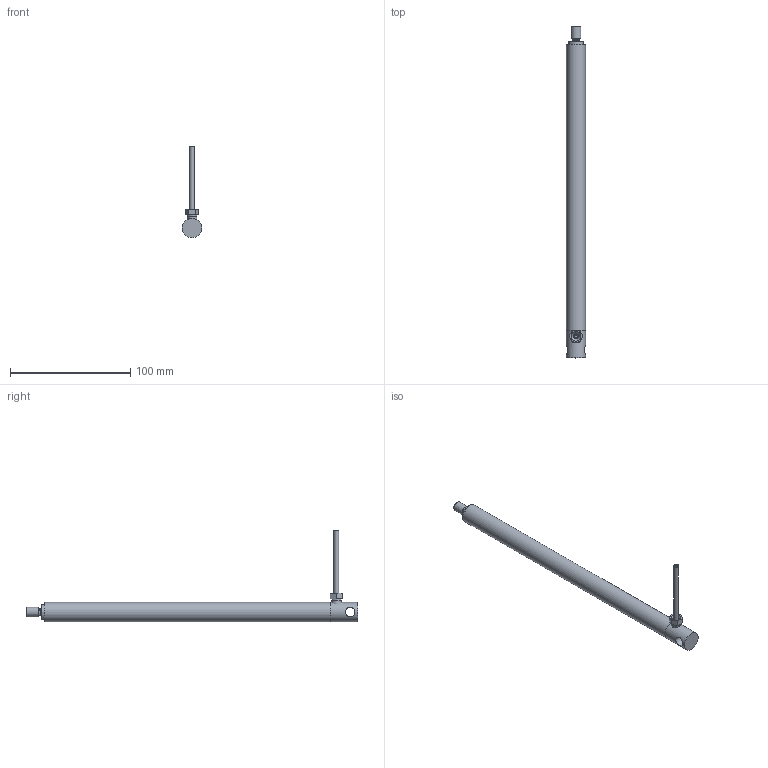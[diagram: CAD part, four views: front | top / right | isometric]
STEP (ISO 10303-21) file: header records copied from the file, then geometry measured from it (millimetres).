
FILE_DESCRIPTION(/* description */ ('Unknown'),/* implementation_level */ '2;1');
FILE_NAME(/* name */ '107.00072 Zylinder CE 1420_eingefahren',/* time_stamp */ '2018-05-18T17:06:50+02:00',/* author */ ('Unknown'),/* organization */ ('Unknown'),/* preprocessor_version */ 'ST-DEVELOPER v16.7',/* originating_system */ 'DEX',/* authorisation */ $);
FILE_SCHEMA (('AUTOMOTIVE_DESIGN {1 0 10303 214 3 1 1}'));
Length unit declared in the file: millimetre
Products named in the file (9): 107.00072; 121.00002; 142.00021; 125.00021; 115.00001_oa_0; 125.00034; 120.00022; 122.00001; 113.00002_70mm
Assembly tree (8 placements, depth 2):
  107.00072
    121.00002
    142.00021
    125.00021
    115.00001_oa_0
    125.00034
    120.00022
    122.00001
    113.00002_70mm
Bounding box: 16 x 276 x 76 mm (x, y, z)
Volume: 43046.4 mm3; surface area: 37555.1 mm2
Topology: 7 solids, 7 shells, 86 faces, 182 edges, 116 vertices
Faces by surface type: plane 29, cylinder 28, cone 23, torus 5, sphere 1
Full cylindrical faces by diameter (mm): 2.2 x1, 3 x1, 3.5 x1, 4 x1, 4.1 x1, 4.2 x1, 6 x1, 6.917 x2, 7.763 x2, 8 x5, 8.1 x3, 9 x1, 12 x2, 13.9 x2, 14 x2, 16 x2
Entity records: 2678 total; most frequent: CARTESIAN_POINT 430, DIRECTION 356, ORIENTED_EDGE 220, AXIS2_PLACEMENT_3D 169, FACE_BOUND 161, EDGE_LOOP 159, EDGE_CURVE 110, VERTEX_POINT 99
